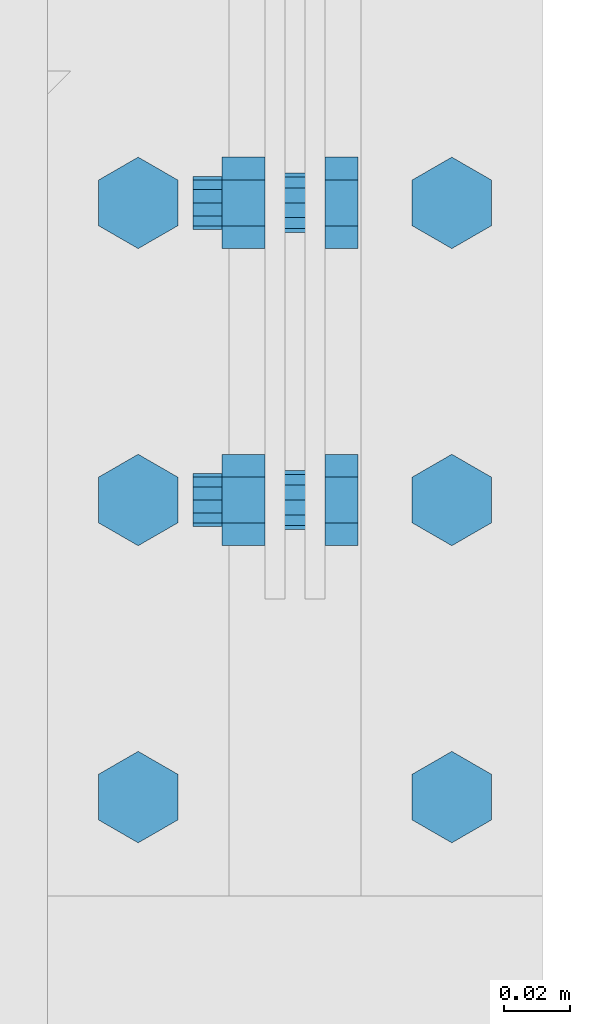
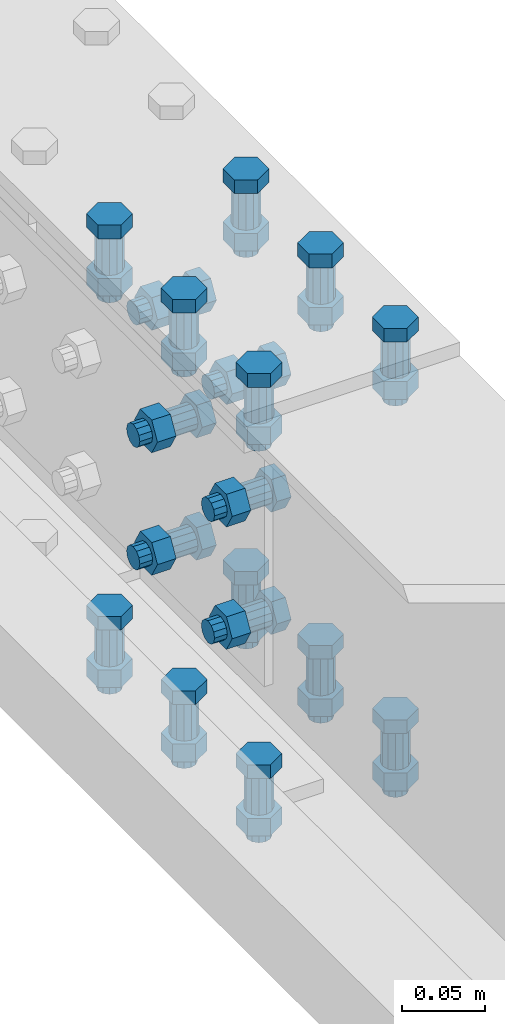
# One storey, part 100 of 3134: 5 mechanical fasteners, 1 element without a shape of its own.
"""IFC2X3 building model written with IfcOpenShell, lengths in millimetres."""

from ifc_helpers import new_model, si_unit, frame, origin_with_axes, place, context, subcontext, project, spatial, faceted_brep, source, transform, mapped, material, type_object, element, aggregate, save


model = new_model("IFC2X3")

# Units and contexts
model_context = context("Model", 3, precision=1e-05, world=origin_with_axes())
body_context = subcontext(model_context, "Body", "Model", "MODEL_VIEW")
ifc_project = project(units=[si_unit("LENGTHUNIT", "METRE", prefix="MILLI"), si_unit("AREAUNIT", "SQUARE_METRE"), si_unit("VOLUMEUNIT", "CUBIC_METRE"), si_unit("MASSUNIT", "GRAM", prefix="KILO"), si_unit("TIMEUNIT", "SECOND"), si_unit("PLANEANGLEUNIT", "RADIAN"), si_unit("SOLIDANGLEUNIT", "STERADIAN"), si_unit("THERMODYNAMICTEMPERATUREUNIT", "DEGREE_CELSIUS"), si_unit("LUMINOUSINTENSITYUNIT", "LUMEN")], contexts=[model_context])

# Site, building, storey
site_placement = place(None, origin_with_axes())
site = spatial("IfcSite", under=ifc_project, at=site_placement, CompositionType="ELEMENT")
building_placement = place(site_placement, origin_with_axes())
building = spatial("IfcBuilding", under=site, at=building_placement, Name="Undefined", CompositionType="ELEMENT")
storey_placement = place(building_placement, origin_with_axes())
storey = spatial("IfcBuildingStorey", under=building, at=storey_placement, Name="Undefined", CompositionType="ELEMENT", Elevation=0.0)

# Assembly, mechanical fasteners
assembly_placement = place(storey_placement, origin_with_axes())
assembly = element("IfcElementAssembly", 1, at=assembly_placement, inside=storey, Name="300", AssemblyPlace="NOTDEFINED", PredefinedType="RIGID_FRAME")
ifc_material = material(Name="8.8")
mechanical_fastener_type = type_object("IfcMechanicalFastenerType", Name="Bolt assembly")
shared_shape_1 = source(origin_with_axes(), body_context, "Body", "Brep", [
    faceted_brep([(13.856406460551, -19.0499999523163, 0.0), (6.92820323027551, -19.0499999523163, 12.0), (-6.92820323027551, -19.0499999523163, 12.0), (-13.856406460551, -19.0499999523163, 1.69692038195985e-15), (-6.92820323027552, -19.0499999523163, -12.0), (6.9282032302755, -19.0499999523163, -12.0), (6.9282032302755, -9.04999995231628, -12.0), (-6.92820323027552, -9.04999995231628, -12.0), (-13.856406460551, -9.04999995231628, 1.69692038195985e-15), (-6.92820323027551, -9.04999995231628, 12.0), (6.92820323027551, -9.04999995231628, 12.0), (13.856406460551, -9.04999995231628, 0.0), (8.0, -9.04999995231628, 0.0), (6.92820323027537, -9.04999995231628, 4.00000000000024), (3.99999999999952, -9.04999995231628, 6.92820323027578), (-8.29068785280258e-13, -9.04999995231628, 8.0), (-4.00000000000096, -9.04999995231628, 6.92820323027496), (-6.9282032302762, -9.04999995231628, 3.99999999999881), (-8.0, -9.04999995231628, -1.65813757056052e-12), (-6.92820323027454, -9.04999995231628, -4.00000000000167), (-3.99999999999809, -9.04999995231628, -6.92820323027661), (2.47832457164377e-12, -9.04999995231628, -8.0), (4.00000000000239, -9.04999995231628, -6.92820323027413), (6.92820323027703, -9.04999995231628, -3.99999999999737), (6.92820323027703, 30.9500000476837, -3.99999999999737), (4.00000000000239, 30.9500000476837, -6.92820323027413), (2.47832457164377e-12, 30.9500000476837, -8.0), (-3.99999999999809, 30.9500000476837, -6.92820323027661), (-6.92820323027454, 30.9500000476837, -4.00000000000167), (-8.0, 30.9500000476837, -1.65813757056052e-12), (-6.9282032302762, 30.9500000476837, 3.99999999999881), (-4.00000000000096, 30.9500000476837, 6.92820323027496), (-8.29068785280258e-13, 30.9500000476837, 8.0), (3.99999999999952, 30.9500000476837, 6.92820323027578), (6.92820323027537, 30.9500000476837, 4.00000000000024), (8.0, 30.9500000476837, 0.0), (13.856406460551, 9.04999995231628, 0.0), (6.92820323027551, 9.04999995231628, 12.0), (-6.92820323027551, 9.04999995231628, 12.0), (-13.856406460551, 9.04999995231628, 1.69692038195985e-15), (-6.92820323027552, 9.04999995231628, -12.0), (6.9282032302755, 9.04999995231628, -12.0), (6.9282032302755, 22.0499999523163, -12.0), (-6.92820323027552, 22.0499999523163, -12.0), (-13.856406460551, 22.0499999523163, 1.69692038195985e-15), (-6.92820323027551, 22.0499999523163, 12.0), (6.92820323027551, 22.0499999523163, 12.0), (13.856406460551, 22.0499999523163, 0.0)], [[[0, 1, 2, 3, 4, 5]], [[6, 7, 8, 9, 10, 11]], [[0, 11, 10, 1]], [[1, 10, 9, 2]], [[2, 9, 8, 3]], [[3, 8, 7, 4]], [[4, 7, 6, 5]], [[5, 6, 11, 0]], [[12, 13, 14, 15, 16, 17, 18, 19, 20, 21, 22, 23]], [[24, 25, 26, 27, 28, 29, 30, 31, 32, 33, 34, 35]], [[12, 35, 34, 13]], [[13, 34, 33, 14]], [[14, 33, 32, 15]], [[15, 32, 31, 16]], [[16, 31, 30, 17]], [[17, 30, 29, 18]], [[18, 29, 28, 19]], [[19, 28, 27, 20]], [[20, 27, 26, 21]], [[21, 26, 25, 22]], [[22, 25, 24, 23]], [[23, 24, 35, 12]], [[36, 37, 38, 39, 40, 41]], [[42, 43, 44, 45, 46, 47]], [[36, 47, 46, 37]], [[37, 46, 45, 38]], [[38, 45, 44, 39]], [[39, 44, 43, 40]], [[40, 43, 42, 41]], [[41, 42, 47, 36]]]),
    faceted_brep([(9.0, -8.94999995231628, 0.0), (7.79422863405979, -8.94999995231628, 4.50000000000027), (4.49999999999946, -8.94999995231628, 7.79422863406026), (-9.3270238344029e-13, -8.94999995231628, 9.0), (-4.50000000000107, -8.94999995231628, 7.79422863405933), (-7.79422863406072, -8.94999995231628, 4.49999999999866), (-9.0, -8.94999995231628, -1.86540476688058e-12), (-7.79422863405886, -8.94999995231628, -4.50000000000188), (-4.49999999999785, -8.94999995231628, -7.79422863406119), (2.78811514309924e-12, -8.94999995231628, -9.0), (4.50000000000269, -8.94999995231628, -7.7942286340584), (7.79422863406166, -8.94999995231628, -4.49999999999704), (7.79422863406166, -2.94999995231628, -4.49999999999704), (4.50000000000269, -2.94999995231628, -7.7942286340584), (2.78811514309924e-12, -2.94999995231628, -9.0), (-4.49999999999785, -2.94999995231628, -7.79422863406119), (-7.79422863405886, -2.94999995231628, -4.50000000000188), (-9.0, -2.94999995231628, -1.86540476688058e-12), (-7.79422863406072, -2.94999995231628, 4.49999999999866), (-4.50000000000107, -2.94999995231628, 7.79422863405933), (-9.3270238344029e-13, -2.94999995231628, 9.0), (4.49999999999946, -2.94999995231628, 7.79422863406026), (7.79422863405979, -2.94999995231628, 4.50000000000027), (9.0, -2.94999995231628, 0.0), (9.0, -3.04999995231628, 0.0), (7.79422863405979, -3.04999995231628, 4.50000000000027), (4.49999999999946, -3.04999995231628, 7.79422863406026), (-9.3270238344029e-13, -3.04999995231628, 9.0), (-4.50000000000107, -3.04999995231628, 7.79422863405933), (-7.79422863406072, -3.04999995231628, 4.49999999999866), (-9.0, -3.04999995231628, -1.86540476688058e-12), (-7.79422863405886, -3.04999995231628, -4.50000000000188), (-4.49999999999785, -3.04999995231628, -7.79422863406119), (2.78811514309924e-12, -3.04999995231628, -9.0), (4.50000000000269, -3.04999995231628, -7.7942286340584), (7.79422863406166, -3.04999995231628, -4.49999999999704), (7.79422863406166, 3.04999995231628, -4.49999999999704), (4.50000000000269, 3.04999995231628, -7.7942286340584), (2.78811514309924e-12, 3.04999995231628, -9.0), (-4.49999999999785, 3.04999995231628, -7.79422863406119), (-7.79422863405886, 3.04999995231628, -4.50000000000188), (-9.0, 3.04999995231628, -1.86540476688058e-12), (-7.79422863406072, 3.04999995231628, 4.49999999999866), (-4.50000000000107, 3.04999995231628, 7.79422863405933), (-9.3270238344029e-13, 3.04999995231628, 9.0), (4.49999999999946, 3.04999995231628, 7.79422863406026), (7.79422863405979, 3.04999995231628, 4.50000000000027), (9.0, 3.04999995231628, 0.0), (9.0, 2.95000000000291, 0.0), (7.79422863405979, 2.95000000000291, 4.50000000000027), (4.49999999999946, 2.95000000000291, 7.79422863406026), (-9.3270238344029e-13, 2.95000000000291, 9.0), (-4.50000000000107, 2.95000000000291, 7.79422863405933), (-7.79422863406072, 2.95000000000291, 4.49999999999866), (-9.0, 2.95000000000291, -1.86540476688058e-12), (-7.79422863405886, 2.95000000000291, -4.50000000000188), (-4.49999999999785, 2.95000000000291, -7.79422863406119), (2.78811514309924e-12, 2.95000000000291, -9.0), (4.50000000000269, 2.95000000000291, -7.7942286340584), (7.79422863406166, 2.95000000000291, -4.49999999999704), (7.79422863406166, 9.04999995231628, -4.49999999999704), (4.50000000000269, 9.04999995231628, -7.7942286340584), (2.78811514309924e-12, 9.04999995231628, -9.0), (-4.49999999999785, 9.04999995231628, -7.79422863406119), (-7.79422863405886, 9.04999995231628, -4.50000000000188), (-9.0, 9.04999995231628, -1.86540476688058e-12), (-7.79422863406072, 9.04999995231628, 4.49999999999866), (-4.50000000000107, 9.04999995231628, 7.79422863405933), (-9.3270238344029e-13, 9.04999995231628, 9.0), (4.49999999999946, 9.04999995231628, 7.79422863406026), (7.79422863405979, 9.04999995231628, 4.50000000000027), (9.0, 9.04999995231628, 0.0)], [[[0, 1, 2, 3, 4, 5, 6, 7, 8, 9, 10, 11]], [[12, 13, 14, 15, 16, 17, 18, 19, 20, 21, 22, 23]], [[0, 23, 22, 1]], [[1, 22, 21, 2]], [[2, 21, 20, 3]], [[3, 20, 19, 4]], [[4, 19, 18, 5]], [[5, 18, 17, 6]], [[6, 17, 16, 7]], [[7, 16, 15, 8]], [[8, 15, 14, 9]], [[9, 14, 13, 10]], [[10, 13, 12, 11]], [[11, 12, 23, 0]], [[24, 25, 26, 27, 28, 29, 30, 31, 32, 33, 34, 35]], [[36, 37, 38, 39, 40, 41, 42, 43, 44, 45, 46, 47]], [[24, 47, 46, 25]], [[25, 46, 45, 26]], [[26, 45, 44, 27]], [[27, 44, 43, 28]], [[28, 43, 42, 29]], [[29, 42, 41, 30]], [[30, 41, 40, 31]], [[31, 40, 39, 32]], [[32, 39, 38, 33]], [[33, 38, 37, 34]], [[34, 37, 36, 35]], [[35, 36, 47, 24]], [[48, 49, 50, 51, 52, 53, 54, 55, 56, 57, 58, 59]], [[60, 61, 62, 63, 64, 65, 66, 67, 68, 69, 70, 71]], [[48, 71, 70, 49]], [[49, 70, 69, 50]], [[50, 69, 68, 51]], [[51, 68, 67, 52]], [[52, 67, 66, 53]], [[53, 66, 65, 54]], [[54, 65, 64, 55]], [[55, 64, 63, 56]], [[56, 63, 62, 57]], [[57, 62, 61, 58]], [[58, 61, 60, 59]], [[59, 60, 71, 48]]]),
])
mechanical_fastener_1_placement = place(assembly_placement, frame((20850.0, 28189.9, 5741.5), z_axis=(0.0, 0.0, 1.0), x_axis=(0.0, 1.0, 0.0)))
mechanical_fastener_1 = element("IfcMechanicalFastener", 2, at=mechanical_fastener_1_placement, type_object=mechanical_fastener_type, material=ifc_material, Name="Bolt assembly", NominalDiameter=16.0, NominalLength=40.0, context=body_context, shape_type="MappedRepresentation", body=[
    mapped(shared_shape_1, transform((0.0, 0.0, -90.0))),
    mapped(shared_shape_1, transform((90.0, 0.0, -90.0))),
    mapped(shared_shape_1, transform((0.0, 0.0, 0.0))),
    mapped(shared_shape_1, transform((90.0, 0.0, 0.0))),
    mapped(shared_shape_1, transform((0.0, 0.0, 90.0))),
    mapped(shared_shape_1, transform((90.0, 0.0, 90.0))),
])
shared_shape_2 = source(origin_with_axes(), body_context, "Body", "Brep", [
    faceted_brep([(13.856406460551, -29.1999998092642, 0.0), (6.92820323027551, -29.1999998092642, 12.0), (-6.92820323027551, -29.1999998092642, 12.0), (-13.856406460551, -29.1999998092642, 1.69692038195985e-15), (-6.92820323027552, -29.1999998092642, -12.0), (6.9282032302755, -29.1999998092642, -12.0), (6.9282032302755, -19.199990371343, -12.0), (-6.92820323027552, -19.199990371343, -12.0), (-13.856406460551, -19.199990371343, 1.69692038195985e-15), (-6.92820323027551, -19.199990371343, 12.0), (6.92820323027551, -19.199990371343, 12.0), (13.856406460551, -19.199990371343, 0.0), (8.0, -19.1999998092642, 0.0), (6.92820323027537, -19.1999998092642, 4.00000000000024), (3.99999999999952, -19.1999998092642, 6.92820323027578), (-8.29068785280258e-13, -19.1999998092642, 8.0), (-4.00000000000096, -19.1999998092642, 6.92820323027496), (-6.9282032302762, -19.1999998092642, 3.99999999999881), (-8.0, -19.1999998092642, -1.65813757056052e-12), (-6.92820323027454, -19.1999998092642, -4.00000000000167), (-3.99999999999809, -19.1999998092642, -6.92820323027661), (2.47832457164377e-12, -19.1999998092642, -8.0), (4.00000000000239, -19.1999998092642, -6.92820323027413), (6.92820323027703, -19.1999998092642, -3.99999999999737), (6.92820323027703, 30.8000001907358, -3.99999999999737), (4.00000000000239, 30.8000001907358, -6.92820323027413), (2.47832457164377e-12, 30.8000001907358, -8.0), (-3.99999999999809, 30.8000001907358, -6.92820323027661), (-6.92820323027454, 30.8000001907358, -4.00000000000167), (-8.0, 30.8000001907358, -1.65813757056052e-12), (-6.9282032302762, 30.8000001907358, 3.99999999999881), (-4.00000000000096, 30.8000001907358, 6.92820323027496), (-8.29068785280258e-13, 30.8000001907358, 8.0), (3.99999999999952, 30.8000001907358, 6.92820323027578), (6.92820323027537, 30.8000001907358, 4.00000000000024), (8.0, 30.8000001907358, 0.0), (13.856406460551, 9.99999995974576, 0.0), (6.92820323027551, 9.99999995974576, 12.0), (-6.92820323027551, 9.99999995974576, 12.0), (-13.856406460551, 9.99999995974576, 1.69692038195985e-15), (-6.92820323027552, 9.99999995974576, -12.0), (6.9282032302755, 9.99999995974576, -12.0), (6.9282032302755, 22.9999913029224, -12.0), (-6.92820323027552, 22.9999913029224, -12.0), (-13.856406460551, 22.9999913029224, 1.69692038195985e-15), (-6.92820323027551, 22.9999913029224, 12.0), (6.92820323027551, 22.9999913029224, 12.0), (13.856406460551, 22.9999913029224, 0.0)], [[[0, 1, 2, 3, 4, 5]], [[6, 7, 8, 9, 10, 11]], [[0, 11, 10, 1]], [[1, 10, 9, 2]], [[2, 9, 8, 3]], [[3, 8, 7, 4]], [[4, 7, 6, 5]], [[5, 6, 11, 0]], [[12, 13, 14, 15, 16, 17, 18, 19, 20, 21, 22, 23]], [[24, 25, 26, 27, 28, 29, 30, 31, 32, 33, 34, 35]], [[12, 35, 34, 13]], [[13, 34, 33, 14]], [[14, 33, 32, 15]], [[15, 32, 31, 16]], [[16, 31, 30, 17]], [[17, 30, 29, 18]], [[18, 29, 28, 19]], [[19, 28, 27, 20]], [[20, 27, 26, 21]], [[21, 26, 25, 22]], [[22, 25, 24, 23]], [[23, 24, 35, 12]], [[36, 37, 38, 39, 40, 41]], [[42, 43, 44, 45, 46, 47]], [[36, 47, 46, 37]], [[37, 46, 45, 38]], [[38, 45, 44, 39]], [[39, 44, 43, 40]], [[40, 43, 42, 41]], [[41, 42, 47, 36]]]),
    faceted_brep([(9.0, -19.0999998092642, 0.0), (7.79422863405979, -19.0999998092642, 4.50000000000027), (4.49999999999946, -19.0999998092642, 7.79422863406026), (-9.3270238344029e-13, -19.0999998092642, 9.0), (-4.50000000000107, -19.0999998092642, 7.79422863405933), (-7.79422863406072, -19.0999998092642, 4.49999999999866), (-9.0, -19.0999998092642, -1.86540476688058e-12), (-7.79422863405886, -19.0999998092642, -4.50000000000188), (-4.49999999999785, -19.0999998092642, -7.79422863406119), (2.78811514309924e-12, -19.0999998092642, -9.0), (4.50000000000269, -19.0999998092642, -7.7942286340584), (7.79422863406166, -19.0999998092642, -4.49999999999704), (7.79422863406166, -9.09999037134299, -4.49999999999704), (4.50000000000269, -9.09999037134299, -7.7942286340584), (2.78811514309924e-12, -9.09999037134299, -9.0), (-4.49999999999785, -9.09999037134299, -7.79422863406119), (-7.79422863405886, -9.09999037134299, -4.50000000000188), (-9.0, -9.09999037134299, -1.86540476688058e-12), (-7.79422863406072, -9.09999037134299, 4.49999999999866), (-4.50000000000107, -9.09999037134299, 7.79422863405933), (-9.3270238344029e-13, -9.09999037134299, 9.0), (4.49999999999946, -9.09999037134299, 7.79422863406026), (7.79422863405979, -9.09999037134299, 4.50000000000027), (9.0, -9.09999037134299, 0.0), (9.0, -9.20000008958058, 0.0), (7.79422863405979, -9.20000008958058, 4.50000000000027), (4.49999999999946, -9.20000008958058, 7.79422863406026), (-9.3270238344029e-13, -9.20000008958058, 9.0), (-4.50000000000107, -9.20000008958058, 7.79422863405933), (-7.79422863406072, -9.20000008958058, 4.49999999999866), (-9.0, -9.20000008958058, -1.86540476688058e-12), (-7.79422863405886, -9.20000008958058, -4.50000000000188), (-4.49999999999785, -9.20000008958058, -7.79422863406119), (2.78811514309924e-12, -9.20000008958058, -9.0), (4.50000000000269, -9.20000008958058, -7.7942286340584), (7.79422863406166, -9.20000008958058, -4.49999999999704), (7.79422863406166, -3.46568413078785e-07, -4.49999999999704), (4.50000000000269, -3.46568413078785e-07, -7.7942286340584), (2.78811514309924e-12, -3.46568413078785e-07, -9.0), (-4.49999999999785, -3.46568413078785e-07, -7.79422863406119), (-7.79422863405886, -3.46568413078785e-07, -4.50000000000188), (-9.0, -3.46568413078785e-07, -1.86540476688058e-12), (-7.79422863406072, -3.46568413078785e-07, 4.49999999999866), (-4.50000000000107, -3.46568413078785e-07, 7.79422863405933), (-9.3270238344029e-13, -3.46568413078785e-07, 9.0), (4.49999999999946, -3.46568413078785e-07, 7.79422863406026), (7.79422863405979, -3.46568413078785e-07, 4.50000000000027), (9.0, -3.46568413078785e-07, 0.0), (9.0, -0.1, 0.0), (7.79422863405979, -0.1, 4.50000000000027), (4.49999999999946, -0.1, 7.79422863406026), (-9.3270238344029e-13, -0.1, 9.0), (-4.50000000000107, -0.1, 7.79422863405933), (-7.79422863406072, -0.1, 4.49999999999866), (-9.0, -0.1, -1.86540476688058e-12), (-7.79422863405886, -0.1, -4.50000000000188), (-4.49999999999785, -0.1, -7.79422863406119), (2.78811514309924e-12, -0.1, -9.0), (4.50000000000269, -0.1, -7.7942286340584), (7.79422863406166, -0.1, -4.49999999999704), (7.79422863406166, 9.99999995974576, -4.49999999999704), (4.50000000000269, 9.99999995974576, -7.7942286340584), (2.78811514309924e-12, 9.99999995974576, -9.0), (-4.49999999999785, 9.99999995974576, -7.79422863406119), (-7.79422863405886, 9.99999995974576, -4.50000000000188), (-9.0, 9.99999995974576, -1.86540476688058e-12), (-7.79422863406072, 9.99999995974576, 4.49999999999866), (-4.50000000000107, 9.99999995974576, 7.79422863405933), (-9.3270238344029e-13, 9.99999995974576, 9.0), (4.49999999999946, 9.99999995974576, 7.79422863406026), (7.79422863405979, 9.99999995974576, 4.50000000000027), (9.0, 9.99999995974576, 0.0)], [[[0, 1, 2, 3, 4, 5, 6, 7, 8, 9, 10, 11]], [[12, 13, 14, 15, 16, 17, 18, 19, 20, 21, 22, 23]], [[0, 23, 22, 1]], [[1, 22, 21, 2]], [[2, 21, 20, 3]], [[3, 20, 19, 4]], [[4, 19, 18, 5]], [[5, 18, 17, 6]], [[6, 17, 16, 7]], [[7, 16, 15, 8]], [[8, 15, 14, 9]], [[9, 14, 13, 10]], [[10, 13, 12, 11]], [[11, 12, 23, 0]], [[24, 25, 26, 27, 28, 29, 30, 31, 32, 33, 34, 35]], [[36, 37, 38, 39, 40, 41, 42, 43, 44, 45, 46, 47]], [[24, 47, 46, 25]], [[25, 46, 45, 26]], [[26, 45, 44, 27]], [[27, 44, 43, 28]], [[28, 43, 42, 29]], [[29, 42, 41, 30]], [[30, 41, 40, 31]], [[31, 40, 39, 32]], [[32, 39, 38, 33]], [[33, 38, 37, 34]], [[34, 37, 36, 35]], [[35, 36, 47, 24]], [[48, 49, 50, 51, 52, 53, 54, 55, 56, 57, 58, 59]], [[60, 61, 62, 63, 64, 65, 66, 67, 68, 69, 70, 71]], [[48, 71, 70, 49]], [[49, 70, 69, 50]], [[50, 69, 68, 51]], [[51, 68, 67, 52]], [[52, 67, 66, 53]], [[53, 66, 65, 54]], [[54, 65, 64, 55]], [[55, 64, 63, 56]], [[56, 63, 62, 57]], [[57, 62, 61, 58]], [[58, 61, 60, 59]], [[59, 60, 71, 48]]]),
])
mechanical_fastener_2_placement = place(assembly_placement, frame((20802.5, 28099.9, 5880.80000019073), z_axis=(-1.0, 0.0, 0.0), x_axis=(0.0, 1.0, 0.0)))
mechanical_fastener_2 = element("IfcMechanicalFastener", 3, at=mechanical_fastener_2_placement, type_object=mechanical_fastener_type, material=ifc_material, Name="Bolt assembly", NominalDiameter=16.0, NominalLength=50.0, context=body_context, shape_type="MappedRepresentation", body=[
    mapped(shared_shape_2, transform((0.0, 0.0, 0.0))),
    mapped(shared_shape_2, transform((90.0, 0.0, 0.0))),
    mapped(shared_shape_2, transform((180.0, 0.0, 0.0))),
])
mechanical_fastener_3_placement = place(assembly_placement, frame((20897.5, 28099.9, 5880.80000019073), z_axis=(-1.0, 0.0, 0.0), x_axis=(0.0, 1.0, 0.0)))
mechanical_fastener_3 = element("IfcMechanicalFastener", 4, at=mechanical_fastener_3_placement, type_object=mechanical_fastener_type, material=ifc_material, Name="Bolt assembly", NominalDiameter=16.0, NominalLength=50.0, context=body_context, shape_type="MappedRepresentation", body=[
    mapped(shared_shape_2, transform((0.0, 0.0, 0.0))),
    mapped(shared_shape_2, transform((90.0, 0.0, 0.0))),
    mapped(shared_shape_2, transform((180.0, 0.0, 0.0))),
])
shared_shape_3 = source(origin_with_axes(), body_context, "Body", "Brep", [
    faceted_brep([(13.856406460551, -20.0, 0.0), (6.92820323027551, -20.0, 12.0), (-6.92820323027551, -20.0, 12.0), (-13.856406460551, -20.0, 1.69692038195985e-15), (-6.92820323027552, -20.0, -12.0), (6.9282032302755, -20.0, -12.0), (6.9282032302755, -10.0, -12.0), (-6.92820323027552, -10.0, -12.0), (-13.856406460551, -10.0, 1.69692038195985e-15), (-6.92820323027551, -10.0, 12.0), (6.92820323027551, -10.0, 12.0), (13.856406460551, -10.0, 0.0), (8.0, -10.0, 0.0), (6.92820323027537, -10.0, 4.00000000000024), (3.99999999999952, -10.0, 6.92820323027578), (-8.29068785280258e-13, -10.0, 8.0), (-4.00000000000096, -10.0, 6.92820323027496), (-6.9282032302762, -10.0, 3.99999999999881), (-8.0, -10.0, -1.65813757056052e-12), (-6.92820323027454, -10.0, -4.00000000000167), (-3.99999999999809, -10.0, -6.92820323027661), (2.47832457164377e-12, -10.0, -8.0), (4.00000000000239, -10.0, -6.92820323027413), (6.92820323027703, -10.0, -3.99999999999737), (6.92820323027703, 40.0, -3.99999999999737), (4.00000000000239, 40.0, -6.92820323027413), (2.47832457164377e-12, 40.0, -8.0), (-3.99999999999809, 40.0, -6.92820323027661), (-6.92820323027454, 40.0, -4.00000000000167), (-8.0, 40.0, -1.65813757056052e-12), (-6.9282032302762, 40.0, 3.99999999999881), (-4.00000000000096, 40.0, 6.92820323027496), (-8.29068785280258e-13, 40.0, 8.0), (3.99999999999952, 40.0, 6.92820323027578), (6.92820323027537, 40.0, 4.00000000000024), (8.0, 40.0, 0.0), (13.856406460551, 19.1999998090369, 0.0), (6.92820323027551, 19.1999998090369, 12.0), (-6.92820323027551, 19.1999998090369, 12.0), (-13.856406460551, 19.1999998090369, 1.69692038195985e-15), (-6.92820323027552, 19.1999998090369, -12.0), (6.9282032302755, 19.1999998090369, -12.0), (6.9282032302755, 32.1999998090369, -12.0), (-6.92820323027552, 32.1999998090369, -12.0), (-13.856406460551, 32.1999998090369, 1.69692038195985e-15), (-6.92820323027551, 32.1999998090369, 12.0), (6.92820323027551, 32.1999998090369, 12.0), (13.856406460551, 32.1999998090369, 0.0)], [[[0, 1, 2, 3, 4, 5]], [[6, 7, 8, 9, 10, 11]], [[0, 11, 10, 1]], [[1, 10, 9, 2]], [[2, 9, 8, 3]], [[3, 8, 7, 4]], [[4, 7, 6, 5]], [[5, 6, 11, 0]], [[12, 13, 14, 15, 16, 17, 18, 19, 20, 21, 22, 23]], [[24, 25, 26, 27, 28, 29, 30, 31, 32, 33, 34, 35]], [[12, 35, 34, 13]], [[13, 34, 33, 14]], [[14, 33, 32, 15]], [[15, 32, 31, 16]], [[16, 31, 30, 17]], [[17, 30, 29, 18]], [[18, 29, 28, 19]], [[19, 28, 27, 20]], [[20, 27, 26, 21]], [[21, 26, 25, 22]], [[22, 25, 24, 23]], [[23, 24, 35, 12]], [[36, 37, 38, 39, 40, 41]], [[42, 43, 44, 45, 46, 47]], [[36, 47, 46, 37]], [[37, 46, 45, 38]], [[38, 45, 44, 39]], [[39, 44, 43, 40]], [[40, 43, 42, 41]], [[41, 42, 47, 36]]]),
    faceted_brep([(9.0, 9.09999980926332, 0.0), (7.79422863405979, 9.09999980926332, 4.50000000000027), (4.49999999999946, 9.09999980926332, 7.79422863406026), (-9.3270238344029e-13, 9.09999980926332, 9.0), (-4.50000000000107, 9.09999980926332, 7.79422863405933), (-7.79422863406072, 9.09999980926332, 4.49999999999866), (-9.0, 9.09999980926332, -1.86540476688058e-12), (-7.79422863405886, 9.09999980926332, -4.50000000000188), (-4.49999999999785, 9.09999980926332, -7.79422863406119), (2.78811514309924e-12, 9.09999980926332, -9.0), (4.50000000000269, 9.09999980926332, -7.7942286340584), (7.79422863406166, 9.09999980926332, -4.49999999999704), (7.79422863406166, 19.1999998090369, -4.49999999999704), (4.50000000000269, 19.1999998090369, -7.7942286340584), (2.78811514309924e-12, 19.1999998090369, -9.0), (-4.49999999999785, 19.1999998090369, -7.79422863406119), (-7.79422863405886, 19.1999998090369, -4.50000000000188), (-9.0, 19.1999998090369, -1.86540476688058e-12), (-7.79422863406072, 19.1999998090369, 4.49999999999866), (-4.50000000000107, 19.1999998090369, 7.79422863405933), (-9.3270238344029e-13, 19.1999998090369, 9.0), (4.49999999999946, 19.1999998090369, 7.79422863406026), (7.79422863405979, 19.1999998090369, 4.50000000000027), (9.0, 19.1999998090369, 0.0), (9.0, -3.46568413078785e-07, 0.0), (7.79422863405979, -3.46568413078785e-07, 4.50000000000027), (4.49999999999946, -3.46568413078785e-07, 7.79422863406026), (-9.3270238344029e-13, -3.46568413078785e-07, 9.0), (-4.50000000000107, -3.46568413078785e-07, 7.79422863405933), (-7.79422863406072, -3.46568413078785e-07, 4.49999999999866), (-9.0, -3.46568413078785e-07, -1.86540476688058e-12), (-7.79422863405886, -3.46568413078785e-07, -4.50000000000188), (-4.49999999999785, -3.46568413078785e-07, -7.79422863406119), (2.78811514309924e-12, -3.46568413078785e-07, -9.0), (4.50000000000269, -3.46568413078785e-07, -7.7942286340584), (7.79422863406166, -3.46568413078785e-07, -4.49999999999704), (7.79422863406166, 9.19999980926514, -4.49999999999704), (4.50000000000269, 9.19999980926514, -7.7942286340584), (2.78811514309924e-12, 9.19999980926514, -9.0), (-4.49999999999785, 9.19999980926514, -7.79422863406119), (-7.79422863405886, 9.19999980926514, -4.50000000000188), (-9.0, 9.19999980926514, -1.86540476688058e-12), (-7.79422863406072, 9.19999980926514, 4.49999999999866), (-4.50000000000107, 9.19999980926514, 7.79422863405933), (-9.3270238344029e-13, 9.19999980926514, 9.0), (4.49999999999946, 9.19999980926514, 7.79422863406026), (7.79422863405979, 9.19999980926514, 4.50000000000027), (9.0, 9.19999980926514, 0.0), (9.0, -9.89999997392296, 0.0), (7.79422863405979, -9.89999997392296, 4.50000000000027), (4.49999999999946, -9.89999997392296, 7.79422863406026), (-9.3270238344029e-13, -9.89999997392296, 9.0), (-4.50000000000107, -9.89999997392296, 7.79422863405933), (-7.79422863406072, -9.89999997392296, 4.49999999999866), (-9.0, -9.89999997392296, -1.86540476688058e-12), (-7.79422863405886, -9.89999997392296, -4.50000000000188), (-4.49999999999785, -9.89999997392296, -7.79422863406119), (2.78811514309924e-12, -9.89999997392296, -9.0), (4.50000000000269, -9.89999997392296, -7.7942286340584), (7.79422863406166, -9.89999997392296, -4.49999999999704), (7.79422863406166, 0.100000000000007, -4.49999999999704), (4.50000000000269, 0.100000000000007, -7.7942286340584), (2.78811514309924e-12, 0.100000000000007, -9.0), (-4.49999999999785, 0.100000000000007, -7.79422863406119), (-7.79422863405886, 0.100000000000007, -4.50000000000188), (-9.0, 0.100000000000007, -1.86540476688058e-12), (-7.79422863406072, 0.100000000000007, 4.49999999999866), (-4.50000000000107, 0.100000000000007, 7.79422863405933), (-9.3270238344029e-13, 0.100000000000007, 9.0), (4.49999999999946, 0.100000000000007, 7.79422863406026), (7.79422863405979, 0.100000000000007, 4.50000000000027), (9.0, 0.100000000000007, 0.0)], [[[0, 1, 2, 3, 4, 5, 6, 7, 8, 9, 10, 11]], [[12, 13, 14, 15, 16, 17, 18, 19, 20, 21, 22, 23]], [[0, 23, 22, 1]], [[1, 22, 21, 2]], [[2, 21, 20, 3]], [[3, 20, 19, 4]], [[4, 19, 18, 5]], [[5, 18, 17, 6]], [[6, 17, 16, 7]], [[7, 16, 15, 8]], [[8, 15, 14, 9]], [[9, 14, 13, 10]], [[10, 13, 12, 11]], [[11, 12, 23, 0]], [[24, 25, 26, 27, 28, 29, 30, 31, 32, 33, 34, 35]], [[36, 37, 38, 39, 40, 41, 42, 43, 44, 45, 46, 47]], [[24, 47, 46, 25]], [[25, 46, 45, 26]], [[26, 45, 44, 27]], [[27, 44, 43, 28]], [[28, 43, 42, 29]], [[29, 42, 41, 30]], [[30, 41, 40, 31]], [[31, 40, 39, 32]], [[32, 39, 38, 33]], [[33, 38, 37, 34]], [[34, 37, 36, 35]], [[35, 36, 47, 24]], [[48, 49, 50, 51, 52, 53, 54, 55, 56, 57, 58, 59]], [[60, 61, 62, 63, 64, 65, 66, 67, 68, 69, 70, 71]], [[48, 71, 70, 49]], [[49, 70, 69, 50]], [[50, 69, 68, 51]], [[51, 68, 67, 52]], [[52, 67, 66, 53]], [[53, 66, 65, 54]], [[54, 65, 64, 55]], [[55, 64, 63, 56]], [[56, 63, 62, 57]], [[57, 62, 61, 58]], [[58, 61, 60, 59]], [[59, 60, 71, 48]]]),
])
mechanical_fastener_4_placement = place(assembly_placement, frame((20897.4999999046, 28099.9, 5602.19999980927), z_axis=(-1.0, 0.0, 0.0), x_axis=(0.0, 1.0, 0.0)))
mechanical_fastener_4 = element("IfcMechanicalFastener", 5, at=mechanical_fastener_4_placement, type_object=mechanical_fastener_type, material=ifc_material, Name="Bolt assembly", NominalDiameter=16.0, NominalLength=50.0, context=body_context, shape_type="MappedRepresentation", body=[
    mapped(shared_shape_3, transform((0.0, 0.0, 0.0))),
    mapped(shared_shape_3, transform((90.0, 0.0, 0.0))),
    mapped(shared_shape_3, transform((180.0, 0.0, 0.0))),
])
mechanical_fastener_5_placement = place(assembly_placement, frame((20802.4999999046, 28099.9, 5602.19999980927), z_axis=(-1.0, 0.0, 0.0), x_axis=(0.0, 1.0, 0.0)))
mechanical_fastener_5 = element("IfcMechanicalFastener", 6, at=mechanical_fastener_5_placement, type_object=mechanical_fastener_type, material=ifc_material, Name="Bolt assembly", NominalDiameter=16.0, NominalLength=50.0, context=body_context, shape_type="MappedRepresentation", body=[
    mapped(shared_shape_3, transform((0.0, 0.0, 0.0))),
    mapped(shared_shape_3, transform((90.0, 0.0, 0.0))),
    mapped(shared_shape_3, transform((180.0, 0.0, 0.0))),
])
aggregate(assembly, [mechanical_fastener_4, mechanical_fastener_5, mechanical_fastener_2, mechanical_fastener_3, mechanical_fastener_1])

save(model, "model.ifc")
